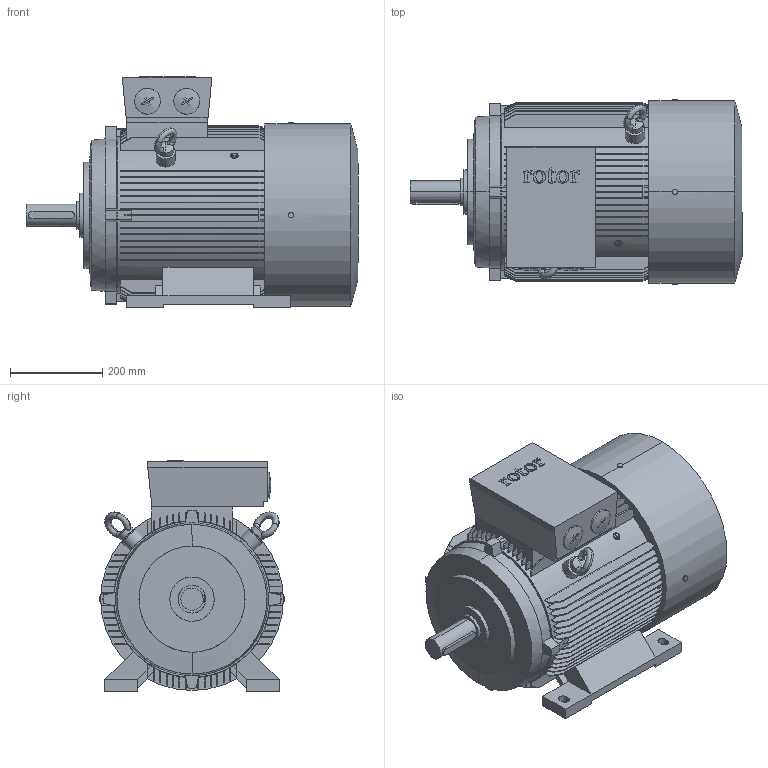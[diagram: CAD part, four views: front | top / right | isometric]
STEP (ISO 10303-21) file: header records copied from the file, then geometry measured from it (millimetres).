
FILE_DESCRIPTION (( 'STEP AP203' ), '1' );
FILE_NAME ('5RN200LxxIM1041 E27.STEP', '2012-01-25T07:39:34', ( 'RBC_ICT' ), ( 'Hewlett-Packard Company' ), 'SwSTEP 2.0', 'SolidWorks 2011', '' );
FILE_SCHEMA (( 'CONFIG_CONTROL_DESIGN' ));
Products named in the file (1): 5RN200LxxIM1041 E27
Bounding box: 720 x 402 x 500.5 mm (x, y, z)
Volume: 68772996.6 mm3; surface area: 2040853.4 mm2
Topology: 1 solids, 1 shells, 791 faces, 2278 edges, 1511 vertices
Faces by surface type: plane 434, cylinder 155, cone 136, bspline 48, torus 16, sphere 2
Entity records: 36050 total; most frequent: CARTESIAN_POINT 16019, ORIENTED_EDGE 4548, DIRECTION 3681, EDGE_CURVE 2274, VERTEX_POINT 1511, AXIS2_PLACEMENT_3D 1233, VECTOR 1215, LINE 1215
